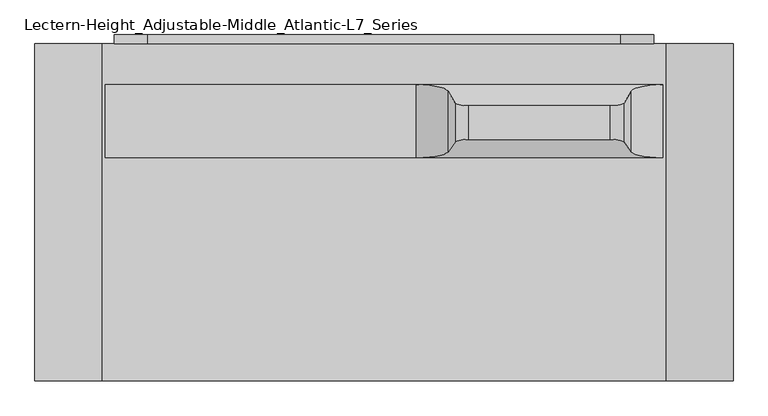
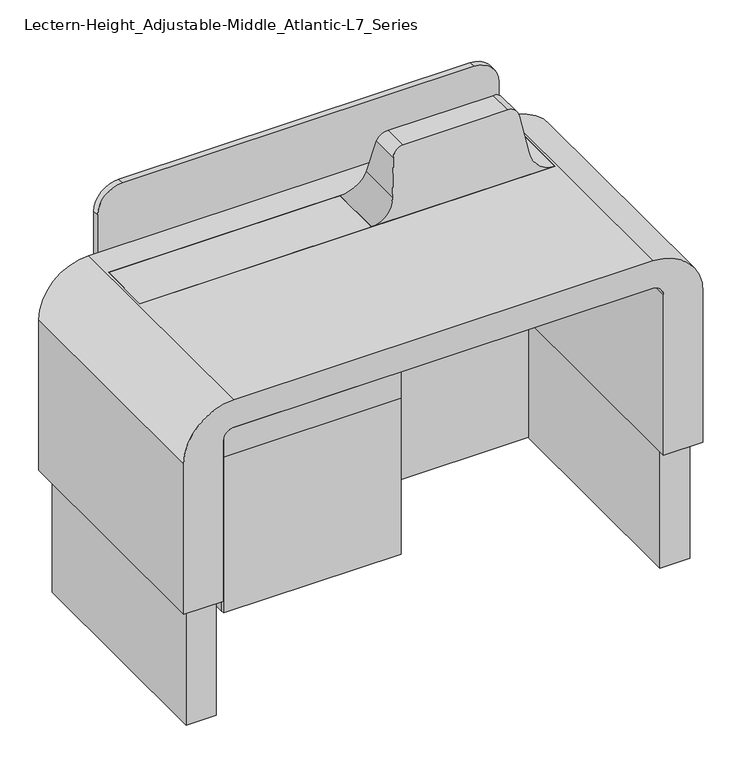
"""IFC4 building model written with IfcOpenShell, lengths in millimetres: electric appliance geometry, Lectern-Height_Adjustable-Middle_Atlantic-L7_Series : Montana Walnut."""

from ifc_helpers import new_model, si_unit, point, frame, frame_2d, origin, origin_with_axes, place, context, project, spatial, polyline, circle_curve, ellipse_curve, trimmed, segment, composite_curve, outline, extrude, source, transform, mapped, element, save
from ifc_brep_helpers import plane_surface, cylinder_surface, revolved_surface, advanced_brep


def lectern_height_adjustable_middle_atlantic_l7_series_439c3b23(model_context):
    return source(origin(), model_context, "Body", "SolidModel", [
        extrude(outline(composite_curve([segment(polyline([(928.37, 636.143), (928.37, -636.143)]), True, "CONTINUOUS"), segment(trimmed(circle_curve(frame_2d((896.62, -636.143)), 31.75), [point((928.37, -636.143))], [point((896.62, -667.893))], False, "CARTESIAN"), True, "CONTINUOUS"), segment(polyline([(896.62, -667.893), (381.0, -667.893), (381.0, 667.893), (896.62, 667.893)]), True, "CONTINUOUS"), segment(trimmed(circle_curve(frame_2d((896.62, 636.143)), 31.75), [point((896.62, 667.893))], [point((928.37, 636.143))], False, "CARTESIAN"), True, "CONTINUOUS")], self_intersect=False)), frame((0.0, 341.122, 0.0), z_axis=(0.0, 1.0, 0.0), x_axis=(0.0, 0.0, 1.0)), (0.0, 0.0, 1.0), 30.48),
        advanced_brep(
        [(-667.893, -378.714, 896.62), (-667.893, -378.714, 343.154), (-128.143, -378.714, 343.154), (-128.143, -378.714, 928.37), (-636.143, -378.714, 928.37), (-140.843, -378.714, 355.854), (-655.193, -378.714, 355.854), (-655.193, -378.714, 896.62), (-636.143, -378.714, 915.67), (-140.843, -378.714, 915.67), (-667.893, 192.786, 896.62), (-636.143, 192.786, 928.37), (-128.143, 192.786, 928.37), (-128.143, 192.786, 343.154), (-667.893, 192.786, 343.154), (-667.893, 180.086, 896.62), (-667.893, 180.086, 343.154), (-128.143, 180.086, 343.154), (-128.143, 180.086, 928.37), (-636.143, 180.086, 928.37), (-140.843, 180.086, 355.854), (-655.193, 180.086, 355.854), (-655.193, 180.086, 896.62), (-636.143, 180.086, 915.67), (-140.843, 180.086, 915.67)],
        [
            (0, 1),
            (1, 2),
            (2, 3),
            (3, 4),
            (4, 0, circle_curve(frame((-636.143, -378.714, 896.62), z_axis=(0.0, -1.0, 0.0), x_axis=(1.0, 0.0, 0.0)), 31.75)),
            (5, 6),
            (6, 7),
            (7, 8, circle_curve(frame((-636.143, -378.714, 896.62), z_axis=(0.0, 1.0, 0.0), x_axis=(1.0, 0.0, 0.0)), 19.05)),
            (8, 9),
            (9, 5),
            (10, 11, circle_curve(frame((-636.143, 192.786, 896.62), z_axis=(0.0, 1.0, 0.0), x_axis=(1.0, 0.0, 0.0)), 31.75)),
            (11, 12),
            (12, 13),
            (13, 14),
            (14, 10),
            (0, 15),
            (15, 10),
            (14, 16),
            (16, 1),
            (13, 17),
            (17, 2),
            (12, 18),
            (18, 3),
            (11, 19),
            (19, 4),
            (5, 20),
            (20, 21),
            (21, 6),
            (21, 22),
            (22, 7),
            (22, 23, circle_curve(frame((-636.143, 180.086, 896.62), z_axis=(0.0, 1.0, 0.0), x_axis=(1.0, 0.0, 0.0)), 19.05)),
            (23, 8),
            (23, 24),
            (24, 9),
            (24, 20),
        ],
        [
            plane_surface(frame((-667.893, -378.714, 343.154), z_axis=(0.0, -1.0, 0.0), x_axis=(0.0, 0.0, -1.0))),
            plane_surface(frame((-667.893, 192.786, 343.154), z_axis=(0.0, 1.0, 0.0), x_axis=(0.0, 0.0, 1.0))),
            plane_surface(frame((-667.893, -378.714, 896.62), z_axis=(-1.0, 0.0, 0.0), x_axis=(0.0, 1.0, 0.0))),
            plane_surface(frame((-667.893, -378.714, 343.154), z_axis=(0.0, 0.0, -1.0), x_axis=(0.0, 1.0, 0.0))),
            plane_surface(frame((-128.143, -378.714, 343.154), z_axis=(1.0, 0.0, 0.0), x_axis=(0.0, 1.0, 0.0))),
            plane_surface(frame((-128.143, -378.714, 928.37), z_axis=(0.0, 0.0, 1.0), x_axis=(0.0, 1.0, 0.0))),
            cylinder_surface(frame((-636.143, 192.786, 896.62), z_axis=(0.0, -1.0, 0.0), x_axis=(1.0, 0.0, 0.0)), 31.75),
            plane_surface(frame((-140.843, -378.714, 355.854), z_axis=(0.0, 0.0, 1.0), x_axis=(0.0, 1.0, 0.0))),
            plane_surface(frame((-655.193, -378.714, 355.854), z_axis=(1.0, 0.0, 0.0), x_axis=(0.0, 1.0, 0.0))),
            revolved_surface(polyline([(-617.0930000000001, 180.086, 896.62), (-617.0930000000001, -378.714, 896.62)]), (-636.143, 0.0, 896.62), (0.0, 1.0, 0.0)),
            plane_surface(frame((-636.143, -378.714, 915.67), z_axis=(0.0, 0.0, -1.0), x_axis=(0.0, 1.0, 0.0))),
            plane_surface(frame((-140.843, -378.714, 915.67), z_axis=(-1.0, 0.0, 0.0), x_axis=(0.0, 1.0, 0.0))),
            plane_surface(frame((-667.893, 180.086, 343.154), z_axis=(0.0, -1.0, 0.0), x_axis=(0.0, 0.0, -1.0))),
        ],
        [
            (0, [[1, 2, 3, 4, 5], [6, 7, 8, 9, 10]]),
            (1, [[11, 12, 13, 14, 15]]),
            (2, [[-1, 16, 17, -15, 18, 19]]),
            (3, [[-2, -19, -18, -14, 20, 21]]),
            (4, [[-3, -21, -20, -13, 22, 23]]),
            (5, [[-4, -23, -22, -12, 24, 25]]),
            (6, [[-5, -25, -24, -11, -17, -16]]),
            (7, [[-6, 26, 27, 28]]),
            (8, [[-7, -28, 29, 30]]),
            (9, [[-8, -30, 31, 32]]),
            (10, [[-9, -32, 33, 34]]),
            (11, [[-10, -34, 35, -26]]),
            (12, [[-27, -35, -33, -31, -29]]),
        ],
    ),
        advanced_brep(
        [(73.279, 114.046, 1016.0), (73.279, 114.046, 990.6), (629.793, 114.046, 990.6), (629.793, 114.046, 1016.0), (629.793, 279.146, 1016.0), (629.793, 279.146, 990.6), (73.279, 279.146, 990.6), (73.279, 279.146, 1016.0), (558.3687945, 264.041961, 1077.7675701), (558.3687945, 126.7651908, 1077.7675701), (542.5644102, 237.5299389, 1186.1877868), (542.5644102, 149.0911041, 1186.1877868), (511.1464527, 230.886, 1213.358), (511.1464527, 154.686, 1213.358), (191.9255473, 230.886, 1213.358), (191.9255473, 154.686, 1213.358), (160.5075898, 237.5299389, 1186.1877868), (160.5075898, 149.0911041, 1186.1877868), (144.7032055, 264.041961, 1077.7675701), (144.7032055, 126.7651908, 1077.7675701)],
        [
            (0, 1),
            (1, 2),
            (2, 3),
            (3, 0),
            (4, 5),
            (5, 6),
            (6, 7),
            (7, 4),
            (0, 7),
            (6, 1),
            (5, 2),
            (4, 3),
            (4, 8, ellipse_curve(frame((629.793, 261.4960377, 1088.1790564), z_axis=(0.0, 0.9713797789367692, 0.23753173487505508), x_axis=(0.0, 0.23753173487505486, -0.9713797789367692)), 74.305702, 72.1790564)),
            (8, 9),
            (9, 3, ellipse_curve(frame((629.793, 128.9091261, 1088.1790564), z_axis=(0.0, -0.9794497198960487, 0.201688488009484), x_axis=(0.0, 0.20168848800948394, 0.9794497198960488)), 73.693478, 72.1790564)),
            (8, 10),
            (10, 11),
            (11, 9),
            (10, 12, ellipse_curve(frame((511.1464527, 238.6498353, 1181.608), z_axis=(0.0, -0.9713797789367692, -0.23753173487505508), x_axis=(0.0, -0.23753173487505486, 0.9713797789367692)), 32.6854652, 31.75)),
            (12, 13),
            (13, 11, ellipse_curve(frame((511.1464527, 148.1480335, 1181.608), z_axis=(0.0, 0.9794497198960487, -0.201688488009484), x_axis=(0.0, -0.20168848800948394, -0.9794497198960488)), 32.4161612, 31.75)),
            (12, 14),
            (14, 15),
            (15, 13),
            (14, 16, ellipse_curve(frame((191.9255473, 238.6498353, 1181.608), z_axis=(0.0, -0.9713797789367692, -0.23753173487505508), x_axis=(0.0, -0.23753173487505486, 0.9713797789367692)), 32.6854652, 31.75)),
            (16, 17),
            (17, 15, ellipse_curve(frame((191.9255473, 148.1480335, 1181.608), z_axis=(0.0, 0.9794497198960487, -0.201688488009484), x_axis=(0.0, -0.20168848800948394, -0.9794497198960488)), 32.4161612, 31.75)),
            (16, 18),
            (18, 19),
            (19, 17),
            (0, 19, ellipse_curve(frame((73.279, 128.9091261, 1088.1790564), z_axis=(0.0, -0.9794497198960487, 0.201688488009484), x_axis=(0.0, 0.20168848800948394, 0.9794497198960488)), 73.693478, 72.1790564)),
            (18, 7, ellipse_curve(frame((73.279, 261.4960377, 1088.1790564), z_axis=(0.0, 0.9713797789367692, 0.23753173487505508), x_axis=(0.0, 0.23753173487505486, -0.9713797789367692)), 74.305702, 72.1790564)),
        ],
        [
            plane_surface(frame((73.279, 114.046, 1016.0), z_axis=(0.0, -1.0, 0.0), x_axis=(1.6120438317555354e-12, 0.0, -1.0))),
            plane_surface(frame((73.279, 279.146, 1016.0), z_axis=(0.0, 1.0, 0.0), x_axis=(-1.6120438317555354e-12, 0.0, 1.0))),
            plane_surface(frame((73.279, 114.046, 1016.0), z_axis=(-1.0, 0.0, -1.6120438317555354e-12), x_axis=(0.0, 1.0, 0.0))),
            plane_surface(frame((73.279, 114.046, 990.6), z_axis=(0.0, 0.0, -1.0), x_axis=(0.0, 1.0, 0.0))),
            plane_surface(frame((629.793, 114.046, 990.6), z_axis=(1.0, 0.0, 0.0), x_axis=(0.0, 1.0, 0.0))),
            revolved_surface(polyline([(701.9720564, 279.1460000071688, 1088.1790564), (701.9720564, 114.04599994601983, 1088.1790564)]), (629.793, 279.146, 1088.1790564), (0.0, 1.0, 0.0)),
            plane_surface(frame((558.3687945, 114.046, 1077.7675701), z_axis=(0.9895419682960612, 0.0, 0.14424525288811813), x_axis=(0.0, 1.0, 0.0))),
            cylinder_surface(frame((511.1464527, 279.146, 1181.608), z_axis=(0.0, -1.0, 0.0), x_axis=(1.0, 0.0, 0.0)), 31.75),
            plane_surface(frame((511.1464527, 114.046, 1213.358), z_axis=(0.0, 0.0, 1.0), x_axis=(0.0, 1.0, 0.0))),
            cylinder_surface(frame((191.9255473, 279.146, 1181.608), z_axis=(0.0, -1.0, 0.0), x_axis=(1.0, 0.0, 0.0)), 31.75),
            plane_surface(frame((160.5075898, 114.046, 1186.1877868), z_axis=(-0.9895419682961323, 0.0, 0.14424525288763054), x_axis=(0.0, 1.0, 0.0))),
            revolved_surface(polyline([(145.45805639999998, 279.1460000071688, 1088.1790564), (145.45805639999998, 114.04599994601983, 1088.1790564)]), (73.279, 279.146, 1088.1790564), (0.0, 1.0, 0.0)),
            plane_surface(frame((629.793, 114.046, 1016.0), z_axis=(0.0, -0.9794497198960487, 0.201688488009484), x_axis=(-1.0, 0.0, 0.0))),
            plane_surface(frame((629.793, 230.886, 1213.358), z_axis=(0.0, 0.9713797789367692, 0.23753173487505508), x_axis=(-1.0, 0.0, 0.0))),
        ],
        [
            (0, [[1, 2, 3, 4]]),
            (1, [[5, 6, 7, 8]]),
            (2, [[-1, 9, -7, 10]]),
            (3, [[-2, -10, -6, 11]]),
            (4, [[-3, -11, -5, 12]]),
            (5, [[-12, 13, 14, 15]]),
            (6, [[-14, 16, 17, 18]]),
            (7, [[-17, 19, 20, 21]]),
            (8, [[-20, 22, 23, 24]]),
            (9, [[-23, 25, 26, 27]]),
            (10, [[-26, 28, 29, 30]]),
            (11, [[-9, 31, -29, 32]]),
            (12, [[-4, -15, -18, -21, -24, -27, -30, -31]]),
            (13, [[-8, -32, -28, -25, -22, -19, -16, -13]]),
        ],
    ),
        advanced_brep(
        [(636.143, -391.414, 1016.0), (-636.143, -391.414, 1016.0), (-788.543, -391.414, 863.6), (-788.543, -391.414, 381.0), (-667.893, -391.414, 381.0), (-667.893, -391.414, 896.62), (-636.143, -391.414, 928.37), (636.143, -391.414, 928.37), (667.893, -391.414, 896.62), (667.893, -391.414, 381.0), (788.543, -391.414, 381.0), (788.543, -391.414, 863.6), (636.143, 371.602, 1016.0), (788.543, 371.602, 863.6), (788.543, 371.602, 381.0), (667.893, 371.602, 381.0), (667.893, 371.602, 896.62), (636.143, 371.602, 928.37), (-636.143, 371.602, 928.37), (-667.893, 371.602, 896.62), (-667.893, 371.602, 381.0), (-788.543, 371.602, 381.0), (-788.543, 371.602, 863.6), (-636.143, 371.602, 1016.0), (-629.793, 279.146, 1016.0), (629.793, 279.146, 1016.0), (629.793, 114.046, 1016.0), (-629.793, 114.046, 1016.0), (629.793, 279.146, 990.6), (-629.793, 279.146, 990.6), (-629.793, 114.046, 990.6), (629.793, 114.046, 990.6)],
        [
            (0, 1),
            (1, 2, circle_curve(frame((-636.143, -391.414, 863.6), z_axis=(0.0, -1.0, 0.0), x_axis=(1.0, 0.0, 0.0)), 152.4)),
            (2, 3),
            (3, 4),
            (4, 5),
            (5, 6, circle_curve(frame((-636.143, -391.414, 896.62), z_axis=(0.0, 1.0, 0.0), x_axis=(1.0, 0.0, 0.0)), 31.75)),
            (6, 7),
            (7, 8, circle_curve(frame((636.143, -391.414, 896.62), z_axis=(0.0, 1.0, 0.0), x_axis=(1.0, 0.0, 0.0)), 31.75)),
            (8, 9),
            (9, 10),
            (10, 11),
            (11, 0, circle_curve(frame((636.143, -391.414, 863.6), z_axis=(0.0, -1.0, 0.0), x_axis=(1.0, 0.0, 0.0)), 152.4)),
            (12, 13, circle_curve(frame((636.143, 371.602, 863.6), z_axis=(0.0, 1.0, 0.0), x_axis=(1.0, 0.0, 0.0)), 152.4)),
            (13, 14),
            (14, 15),
            (15, 16),
            (16, 17, circle_curve(frame((636.143, 371.602, 896.62), z_axis=(0.0, -1.0, 0.0), x_axis=(1.0, 0.0, 0.0)), 31.75)),
            (17, 18),
            (18, 19, circle_curve(frame((-636.143, 371.602, 896.62), z_axis=(0.0, -1.0, 0.0), x_axis=(1.0, 0.0, 0.0)), 31.75)),
            (19, 20),
            (20, 21),
            (21, 22),
            (22, 23, circle_curve(frame((-636.143, 371.602, 863.6), z_axis=(0.0, 1.0, 0.0), x_axis=(1.0, 0.0, 0.0)), 152.4)),
            (23, 12),
            (0, 12),
            (23, 1),
            (24, 25),
            (25, 26),
            (26, 27),
            (27, 24),
            (22, 2),
            (21, 3),
            (20, 4),
            (19, 5),
            (18, 6),
            (17, 7),
            (16, 8),
            (15, 9),
            (14, 10),
            (13, 11),
            (28, 29),
            (29, 30),
            (30, 31),
            (31, 28),
            (28, 25),
            (24, 29),
            (27, 30),
            (26, 31),
        ],
        [
            plane_surface(frame((-636.143, -391.414, 1016.0), z_axis=(0.0, -1.0, 0.0), x_axis=(-1.0, 0.0, 0.0))),
            plane_surface(frame((-636.143, 371.602, 1016.0), z_axis=(0.0, 1.0, 0.0), x_axis=(1.0, 0.0, 0.0))),
            plane_surface(frame((636.143, -391.414, 1016.0), z_axis=(0.0, 0.0, 1.0), x_axis=(0.0, 1.0, 0.0))),
            cylinder_surface(frame((-636.143, 371.602, 863.6), z_axis=(0.0, -1.0, 0.0), x_axis=(1.0, 0.0, 0.0)), 152.4),
            plane_surface(frame((-788.543, -391.414, 863.6), z_axis=(-1.0, 0.0, 0.0), x_axis=(0.0, 1.0, 0.0))),
            plane_surface(frame((-788.543, -391.414, 381.0), z_axis=(0.0, 0.0, -1.0), x_axis=(0.0, 1.0, 0.0))),
            plane_surface(frame((-667.893, -391.414, 381.0), z_axis=(1.0, 0.0, 0.0), x_axis=(0.0, 1.0, 0.0))),
            revolved_surface(polyline([(-604.393, 371.602, 896.62), (-604.393, -391.414, 896.62)]), (-636.143, 371.602, 896.62), (0.0, 1.0, 0.0)),
            plane_surface(frame((-636.143, -391.414, 928.37), z_axis=(0.0, 0.0, -1.0), x_axis=(0.0, 1.0, 0.0))),
            revolved_surface(polyline([(667.893, 371.602, 896.62), (667.893, -391.414, 896.62)]), (636.143, 371.602, 896.62), (0.0, 1.0, 0.0)),
            plane_surface(frame((667.893, -391.414, 896.62), z_axis=(-1.0, 0.0, 0.0), x_axis=(0.0, 1.0, 0.0))),
            plane_surface(frame((667.893, -391.414, 381.0), z_axis=(0.0, 0.0, -1.0), x_axis=(0.0, 1.0, 0.0))),
            plane_surface(frame((788.543, -391.414, 381.0), z_axis=(1.0, 0.0, 0.0), x_axis=(0.0, 1.0, 0.0))),
            cylinder_surface(frame((636.143, 371.602, 863.6), z_axis=(0.0, -1.0, 0.0), x_axis=(1.0, 0.0, 0.0)), 152.4),
            plane_surface(frame((-629.793, 279.146, 990.6), z_axis=(0.0, 0.0, 1.0), x_axis=(1.0, 0.0, 0.0))),
            plane_surface(frame((629.793, 279.146, 1016.0), z_axis=(0.0, -1.0, 0.0), x_axis=(0.0, 0.0, -1.0))),
            plane_surface(frame((-629.793, 279.146, 1016.0), z_axis=(1.0, 0.0, 0.0), x_axis=(0.0, 0.0, -1.0))),
            plane_surface(frame((-629.793, 114.046, 1016.0), z_axis=(0.0, 1.0, 0.0), x_axis=(0.0, 0.0, -1.0))),
            plane_surface(frame((629.793, 114.046, 1016.0), z_axis=(-1.0, 0.0, 0.0), x_axis=(0.0, 0.0, -1.0))),
        ],
        [
            (0, [[1, 2, 3, 4, 5, 6, 7, 8, 9, 10, 11, 12]]),
            (1, [[13, 14, 15, 16, 17, 18, 19, 20, 21, 22, 23, 24]]),
            (2, [[-1, 25, -24, 26], [27, 28, 29, 30]]),
            (3, [[-2, -26, -23, 31]]),
            (4, [[-3, -31, -22, 32]]),
            (5, [[-4, -32, -21, 33]]),
            (6, [[-5, -33, -20, 34]]),
            (7, [[-6, -34, -19, 35]]),
            (8, [[-7, -35, -18, 36]]),
            (9, [[-8, -36, -17, 37]]),
            (10, [[-9, -37, -16, 38]]),
            (11, [[-10, -38, -15, 39]]),
            (12, [[-11, -39, -14, 40]]),
            (13, [[-12, -40, -13, -25]]),
            (14, [[41, 42, 43, 44]]),
            (15, [[-41, 45, -27, 46]]),
            (16, [[-42, -46, -30, 47]]),
            (17, [[-43, -47, -29, 48]]),
            (18, [[-44, -48, -28, -45]]),
        ],
    ),
        extrude(outline(polyline([(73.279, 279.146), (73.279, 114.046), (-629.793, 114.046), (-629.793, 279.146), (73.279, 279.146)])), frame((0.0, 0.0, 990.6), z_axis=(0.0, 0.0, 1.0), x_axis=(1.0, 0.0, 0.0)), (0.0, 0.0, 1.0), 25.4),
        extrude(outline(polyline([(-173.228, -351.536), (-173.228, -353.314), (-622.808, -353.314), (-622.808, -351.536), (-173.228, -351.536)])), frame((0.0, 0.0, 355.854), z_axis=(0.0, 0.0, 1.0), x_axis=(1.0, 0.0, 0.0)), (0.0, 0.0, 1.0), 457.2),
        extrude(outline(polyline([(-622.808, -351.536), (-622.808, -353.314), (-649.605, -353.314), (-649.605, -351.536), (-622.808, -351.536)])), frame((0.0, 0.0, 355.854), z_axis=(0.0, 0.0, 1.0), x_axis=(1.0, 0.0, 0.0)), (0.0, 0.0, 1.0), 457.2),
        extrude(outline(polyline([(-146.431, -351.536), (-146.431, -353.314), (-173.228, -353.314), (-173.228, -351.536), (-146.431, -351.536)])), frame((0.0, 0.0, 355.854), z_axis=(0.0, 0.0, 1.0), x_axis=(1.0, 0.0, 0.0)), (0.0, 0.0, 1.0), 457.2),
        extrude(outline(polyline([(-128.143, -391.414), (-667.893, -391.414), (-667.893, -378.714), (-128.143, -378.714), (-128.143, -391.414)])), frame((0.0, 0.0, 343.154), z_axis=(0.0, 0.0, 1.0), x_axis=(1.0, 0.0, 0.0)), (0.0, 0.0, 1.0), 499.364),
        extrude(outline(composite_curve([segment(polyline([(896.62, -667.893), (842.518, -667.893), (842.518, -128.143), (928.37, -128.143), (928.37, -636.143)]), True, "CONTINUOUS"), segment(trimmed(circle_curve(frame_2d((896.62, -636.143)), 31.75), [point((928.37, -636.143))], [point((896.62, -667.893))], False, "CARTESIAN"), True, "CONTINUOUS")], self_intersect=False)), frame((0.0, -391.414, 0.0), z_axis=(0.0, 1.0, 0.0), x_axis=(0.0, 0.0, 1.0)), (0.0, 0.0, 1.0), 12.7),
        extrude(outline(composite_curve([segment(polyline([(381.0, -674.243), (0.0, -674.243), (0.0, 674.243), (381.0, 674.243), (381.0, 667.893), (896.62, 667.893)]), True, "CONTINUOUS"), segment(trimmed(circle_curve(frame_2d((896.62, 636.143)), 31.75), [point((896.62, 667.893))], [point((928.37, 636.143))], False, "CARTESIAN"), True, "CONTINUOUS"), segment(polyline([(928.37, 636.143), (928.37, -636.143)]), True, "CONTINUOUS"), segment(trimmed(circle_curve(frame_2d((896.62, -636.143)), 31.75), [point((928.37, -636.143))], [point((896.62, -667.893))], False, "CARTESIAN"), True, "CONTINUOUS"), segment(polyline([(896.62, -667.893), (381.0, -667.893), (381.0, -674.243)]), True, "CONTINUOUS")], self_intersect=False)), frame((0.0, 328.422, 0.0), z_axis=(0.0, 1.0, 0.0), x_axis=(0.0, 0.0, 1.0)), (0.0, 0.0, 1.0), 12.7),
        extrude(outline(polyline([(-674.243, 341.122), (-674.243, -363.474), (-765.2258, -363.474), (-765.2258, 341.122), (-674.243, 341.122)])), origin_with_axes(), (0.0, 0.0, 1.0), 381.0),
        extrude(outline(polyline([(674.243, 341.122), (765.2258, 341.122), (765.2258, -363.474), (674.243, -363.474), (674.243, 341.122)])), origin_with_axes(), (0.0, 0.0, 1.0), 381.0),
        extrude(outline(composite_curve([segment(polyline([(1213.358, 533.4), (1213.358, -533.4)]), True, "CONTINUOUS"), segment(trimmed(circle_curve(frame_2d((1137.158, -533.4)), 76.2), [point((1213.358, -533.4))], [point((1137.158, -609.6))], False, "CARTESIAN"), True, "CONTINUOUS"), segment(polyline([(1137.158, -609.6), (958.342, -609.6)]), True, "CONTINUOUS"), segment(trimmed(circle_curve(frame_2d((958.342, -533.4)), 76.2), [point((958.342, -609.6))], [point((882.142, -533.4))], False, "CARTESIAN"), True, "CONTINUOUS"), segment(polyline([(882.142, -533.4), (882.142, 533.4)]), True, "CONTINUOUS"), segment(trimmed(circle_curve(frame_2d((958.342, 533.4)), 76.2), [point((882.142, 533.4))], [point((958.342, 609.6))], False, "CARTESIAN"), True, "CONTINUOUS"), segment(polyline([(958.342, 609.6), (1137.158, 609.6)]), True, "CONTINUOUS"), segment(trimmed(circle_curve(frame_2d((1137.158, 533.4)), 76.2), [point((1137.158, 609.6))], [point((1213.358, 533.4))], False, "CARTESIAN"), True, "CONTINUOUS")], self_intersect=False)), frame((0.0, 371.602, 0.0), z_axis=(0.0, 1.0, 0.0), x_axis=(0.0, 0.0, 1.0)), (0.0, 0.0, 1.0), 19.812),
    ])


if __name__ == "__main__":
    model = new_model("IFC4")
    model_context = context("Model", 3, world=origin())
    ifc_project = project(units=[si_unit("LENGTHUNIT", "METRE", prefix="MILLI")], contexts=[model_context])
    site = spatial("IfcSite", under=ifc_project)
    building = spatial("IfcBuilding", under=site)
    placement = place(None, origin())
    lectern_height_adjustable_middle_atlantic_l7_series_shape = lectern_height_adjustable_middle_atlantic_l7_series_439c3b23(model_context)
    element("IfcElectricAppliance", 1, ObjectType="Lectern-Height_Adjustable-Middle_Atlantic-L7_Series : Montana Walnut", at=placement, inside=building, context=model_context, shape_type="MappedRepresentation", body=[
        mapped(lectern_height_adjustable_middle_atlantic_l7_series_shape, transform((0.0, 0.0, 0.0), x_axis=(1.0, 0.0, 0.0), y_axis=(0.0, 1.0, 0.0), z_axis=(0.0, 0.0, 1.0))),
    ])
    save(model, "model.ifc")
